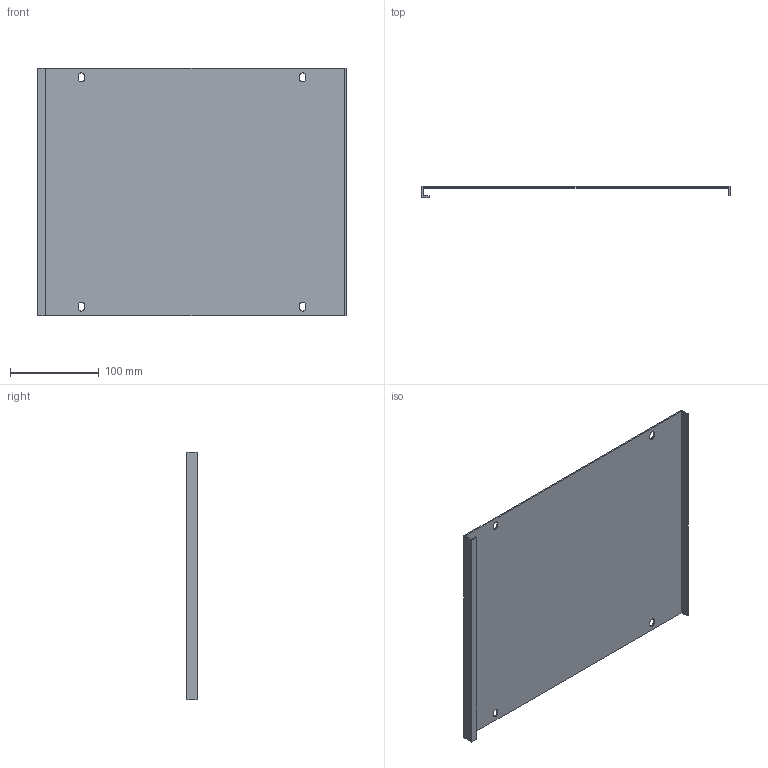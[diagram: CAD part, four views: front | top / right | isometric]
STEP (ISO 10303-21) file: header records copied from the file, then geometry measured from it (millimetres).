
FILE_DESCRIPTION (( 'STEP AP214' ), '1' );
FILE_NAME ('FO-00-PVS-035-040 Ïëàñòðîí ãëóõîé âíóòðåííèé 350õ400.STEP', '2025-08-26T10:05:49', ( '' ), ( '' ), 'SwSTEP 2.0', 'SolidWorks 2023', '' );
FILE_SCHEMA (( 'AUTOMOTIVE_DESIGN' ));
Length unit declared in the file: millimetre
Products named in the file (1): FO-00-PVS-035-040 Пластрон глухой внутренний 350х400
Bounding box: 348 x 12.5 x 279 mm (x, y, z)
Volume: 156162.1 mm3; surface area: 210343.1 mm2
Topology: 1 solids, 1 shells, 42 faces, 120 edges, 80 vertices
Faces by surface type: plane 30, cylinder 12
Entity records: 1407 total; most frequent: CARTESIAN_POINT 243, ORIENTED_EDGE 240, DIRECTION 230, EDGE_CURVE 120, LINE 96, VECTOR 96, VERTEX_POINT 80, AXIS2_PLACEMENT_3D 67
